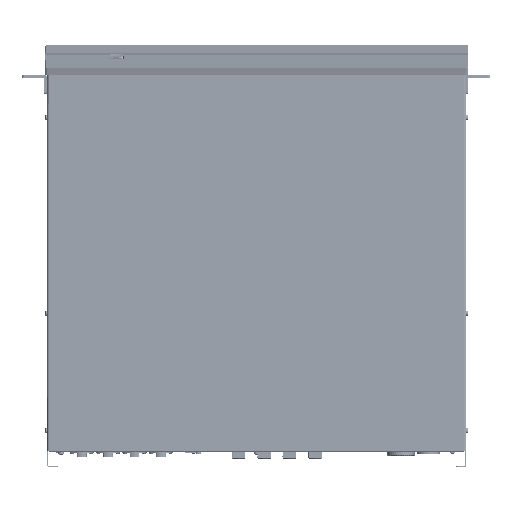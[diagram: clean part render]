
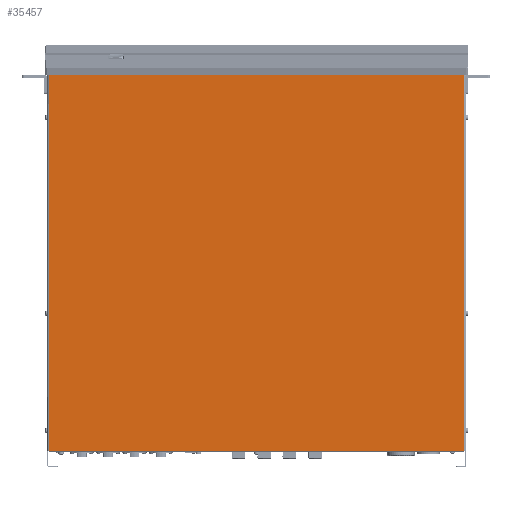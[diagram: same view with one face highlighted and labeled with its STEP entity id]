
A CAD part, top view. The second image highlights one B-rep face of the part: STEP entity #35457.
In plain terms, the highlighted planar face has unit normal (0, 0, 1).
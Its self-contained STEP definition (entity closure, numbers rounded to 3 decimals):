
#35457=ADVANCED_FACE('',(#50649),#294639,.T.);
#50649=FACE_OUTER_BOUND('',#68363,.T.);
#68363=EDGE_LOOP('',(#143591,#143592,#143593,#143594));
#143591=ORIENTED_EDGE('',*,*,#195784,.T.);
#143592=ORIENTED_EDGE('',*,*,#195785,.T.);
#143593=ORIENTED_EDGE('',*,*,#195786,.T.);
#143594=ORIENTED_EDGE('',*,*,#195787,.T.);
#195784=EDGE_CURVE('',#288532,#288533,#230807,.T.);
#195785=EDGE_CURVE('',#288533,#288534,#230808,.T.);
#195786=EDGE_CURVE('',#288534,#288535,#230809,.T.);
#195787=EDGE_CURVE('',#288535,#288532,#230810,.T.);
#230807=B_SPLINE_CURVE_WITH_KNOTS('',1,(#562528,#562529),.UNSPECIFIED.,
 .F.,.F.,(2,2),(0.,424.4),.UNSPECIFIED.);
#230808=B_SPLINE_CURVE_WITH_KNOTS('',1,(#562530,#562531),.UNSPECIFIED.,
 .F.,.F.,(2,2),(0.,384.5),.UNSPECIFIED.);
#230809=B_SPLINE_CURVE_WITH_KNOTS('',1,(#562532,#562533),.UNSPECIFIED.,
 .F.,.F.,(2,2),(0.,424.4),.UNSPECIFIED.);
#230810=B_SPLINE_CURVE_WITH_KNOTS('',1,(#562534,#562535),.UNSPECIFIED.,
 .F.,.F.,(2,2),(0.,384.5),.UNSPECIFIED.);
#288532=VERTEX_POINT('',#554632);
#288533=VERTEX_POINT('',#554633);
#288534=VERTEX_POINT('',#554634);
#288535=VERTEX_POINT('',#554635);
#294639=PLANE('',#323012);
#323012=AXIS2_PLACEMENT_3D('',#542946,#357728,$);
#357728=DIRECTION('',(0.,0.,1.));
#542946=CARTESIAN_POINT('',(-230.7,-254.64,0.));
#554632=CARTESIAN_POINT('',(192.25,-212.2,0.));
#554633=CARTESIAN_POINT('',(192.25,212.2,0.));
#554634=CARTESIAN_POINT('',(-192.25,212.2,0.));
#554635=CARTESIAN_POINT('',(-192.25,-212.2,0.));
#562528=CARTESIAN_POINT('',(192.25,-212.2,0.));
#562529=CARTESIAN_POINT('',(192.25,212.2,0.));
#562530=CARTESIAN_POINT('',(192.25,212.2,0.));
#562531=CARTESIAN_POINT('',(-192.25,212.2,0.));
#562532=CARTESIAN_POINT('',(-192.25,212.2,0.));
#562533=CARTESIAN_POINT('',(-192.25,-212.2,0.));
#562534=CARTESIAN_POINT('',(-192.25,-212.2,0.));
#562535=CARTESIAN_POINT('',(192.25,-212.2,0.));
